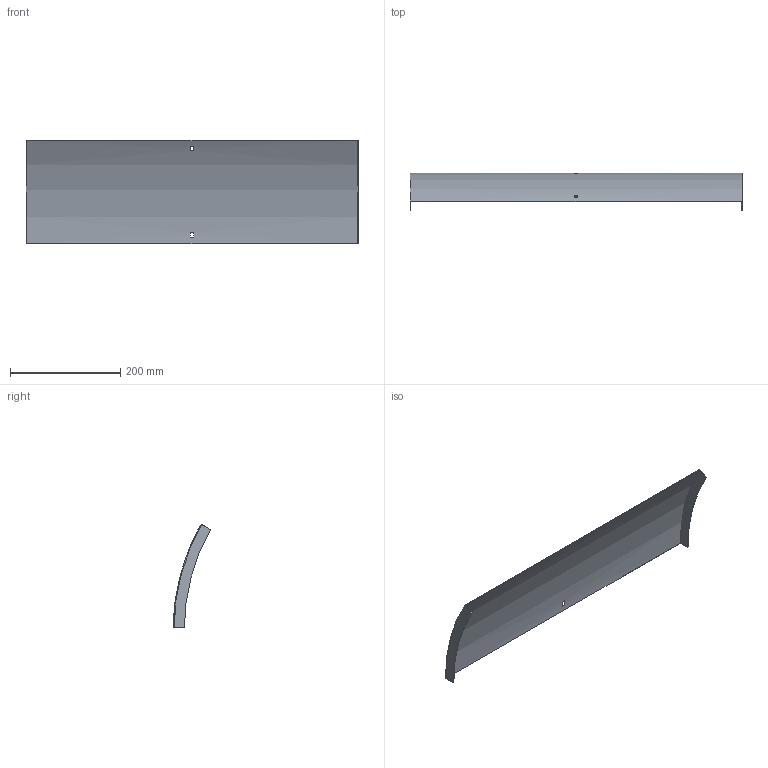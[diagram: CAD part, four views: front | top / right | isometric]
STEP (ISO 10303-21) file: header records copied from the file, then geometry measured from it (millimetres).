
FILE_DESCRIPTION (( 'STEP AP214' ), '1' );
FILE_NAME ('B2_35N3C600.step', '2025-02-21T10:32:00', ( '' ), ( '' ), 'SwSTEP 2.0', 'SolidWorks 2023', '' );
FILE_SCHEMA (( 'AUTOMOTIVE_DESIGN' ));
Length unit declared in the file: millimetre
Products named in the file (1): B2_35N3C600
Bounding box: 603 x 67.76 x 188.25 mm (x, y, z)
Volume: 188406.3 mm3; surface area: 253782.6 mm2
Topology: 1 solids, 1 shells, 18 faces, 48 edges, 32 vertices
Faces by surface type: plane 14, cylinder 4
Entity records: 599 total; most frequent: DIRECTION 102, CARTESIAN_POINT 99, ORIENTED_EDGE 96, EDGE_CURVE 48, AXIS2_PLACEMENT_3D 35, VECTOR 32, LINE 32, VERTEX_POINT 32
